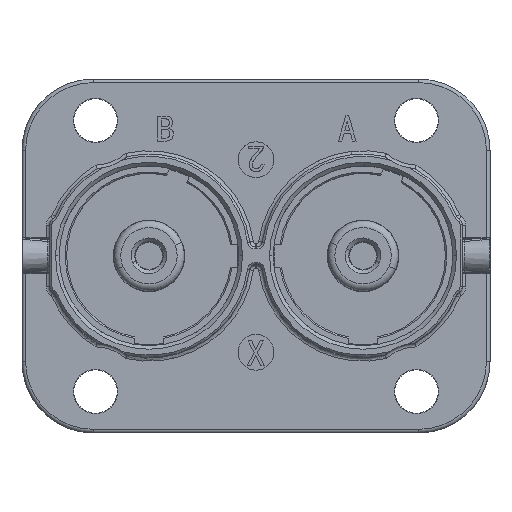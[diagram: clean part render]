
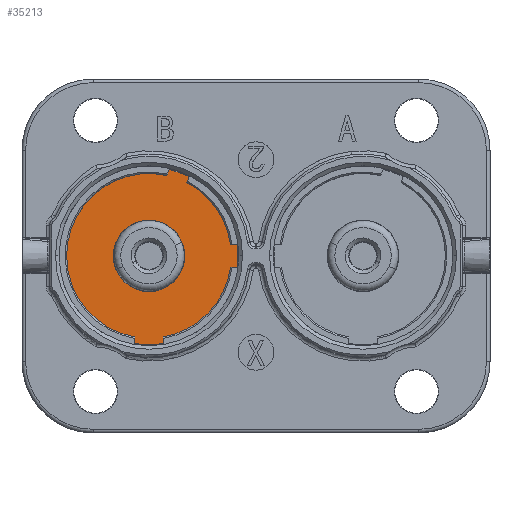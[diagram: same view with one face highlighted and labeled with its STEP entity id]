
A CAD part, top view. The second image highlights one B-rep face of the part: STEP entity #35213.
In plain terms, the highlighted planar face has unit normal (0, 0, 1).
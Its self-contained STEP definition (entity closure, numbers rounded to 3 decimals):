
#1072 = DIRECTION ( 'NONE',  ( 0., 0., -1. ) ) ;
#1168 = ORIENTED_EDGE ( 'NONE', *, *, #40346, .T. ) ;
#1247 = PLANE ( 'NONE',  #42554 ) ;
#1450 = LINE ( 'NONE', #43162, #42008 ) ;
#1623 = CARTESIAN_POINT ( 'NONE',  ( -3.561, 1.6, 7.683 ) ) ;
#2280 = DIRECTION ( 'NONE',  ( 0.342, 0.94, 0. ) ) ;
#2429 = VERTEX_POINT ( 'NONE', #16832 ) ;
#2535 = CARTESIAN_POINT ( 'NONE',  ( -2.674, 1.6, 7.683 ) ) ;
#2698 = CARTESIAN_POINT ( 'NONE',  ( -17., -9.479, 7.683 ) ) ;
#3039 = DIRECTION ( 'NONE',  ( 1., 0., 0. ) ) ;
#3105 = CIRCLE ( 'NONE', #9511, 12.43 ) ;
#3163 = CARTESIAN_POINT ( 'NONE',  ( -15., 0., 7.683 ) ) ;
#3315 = VERTEX_POINT ( 'NONE', #15077 ) ;
#3456 = AXIS2_PLACEMENT_3D ( 'NONE', #30506, #9749, #33979 ) ;
#4047 = EDGE_LOOP ( 'NONE', ( #25305, #32579 ) ) ;
#4705 = CARTESIAN_POINT ( 'NONE',  ( -12.493, 11.275, 7.683 ) ) ;
#4843 = AXIS2_PLACEMENT_3D ( 'NONE', #44519, #23692, #3039 ) ;
#5690 = CARTESIAN_POINT ( 'NONE',  ( -15., 0., 7.683 ) ) ;
#6140 = DIRECTION ( 'NONE',  ( 0., 1., 0. ) ) ;
#6490 = LINE ( 'NONE', #39420, #14583 ) ;
#6622 = DIRECTION ( 'NONE',  ( 1., 0., 0. ) ) ;
#6895 = VERTEX_POINT ( 'NONE', #37498 ) ;
#7235 = VECTOR ( 'NONE', #2280, 1000. ) ;
#7286 = EDGE_CURVE ( 'NONE', #2429, #6895, #35139, .T. ) ;
#7413 = ORIENTED_EDGE ( 'NONE', *, *, #44130, .F. ) ;
#7808 = CARTESIAN_POINT ( 'NONE',  ( -17., -11.376, 7.683 ) ) ;
#7820 = EDGE_CURVE ( 'NONE', #15420, #11258, #1450, .T. ) ;
#8349 = VERTEX_POINT ( 'NONE', #22024 ) ;
#8533 = VECTOR ( 'NONE', #29875, 1000. ) ;
#9155 = DIRECTION ( 'NONE',  ( 1., 0., 0. ) ) ;
#9511 = AXIS2_PLACEMENT_3D ( 'NONE', #13577, #37825, #17070 ) ;
#9596 = FACE_BOUND ( 'NONE', #4047, .T. ) ;
#9732 = VERTEX_POINT ( 'NONE', #24856 ) ;
#9749 = DIRECTION ( 'NONE',  ( 0., 0., -1. ) ) ;
#10677 = DIRECTION ( 'NONE',  ( -0.342, -0.94, 0. ) ) ;
#10698 = ORIENTED_EDGE ( 'NONE', *, *, #30444, .F. ) ;
#10732 = EDGE_CURVE ( 'NONE', #22146, #8349, #22030, .T. ) ;
#11016 = ORIENTED_EDGE ( 'NONE', *, *, #13310, .F. ) ;
#11258 = VERTEX_POINT ( 'NONE', #2535 ) ;
#11588 = DIRECTION ( 'NONE',  ( 0., 0., 1. ) ) ;
#12173 = EDGE_CURVE ( 'NONE', #2429, #28296, #22360, .T. ) ;
#13108 = CIRCLE ( 'NONE', #18518, 11.55 ) ;
#13310 = EDGE_CURVE ( 'NONE', #20489, #3315, #27063, .T. ) ;
#13577 = CARTESIAN_POINT ( 'NONE',  ( -15., 0., 7.683 ) ) ;
#13803 = ORIENTED_EDGE ( 'NONE', *, *, #24626, .F. ) ;
#14583 = VECTOR ( 'NONE', #42889, 1000. ) ;
#15077 = CARTESIAN_POINT ( 'NONE',  ( -9.674, 10.249, 7.683 ) ) ;
#15420 = VERTEX_POINT ( 'NONE', #1623 ) ;
#15462 = DIRECTION ( 'NONE',  ( 0., 0., 1. ) ) ;
#15671 = CARTESIAN_POINT ( 'NONE',  ( -3.561, -1.6, 7.683 ) ) ;
#15757 = ORIENTED_EDGE ( 'NONE', *, *, #32434, .F. ) ;
#16048 = ORIENTED_EDGE ( 'NONE', *, *, #18278, .T. ) ;
#16537 = CARTESIAN_POINT ( 'NONE',  ( -15., 0., 7.683 ) ) ;
#16832 = CARTESIAN_POINT ( 'NONE',  ( -17., -12.268, 7.683 ) ) ;
#16935 = AXIS2_PLACEMENT_3D ( 'NONE', #21710, #1072, #25167 ) ;
#17070 = DIRECTION ( 'NONE',  ( 1., 0., 0. ) ) ;
#18091 = DIRECTION ( 'NONE',  ( 0., 0., -1. ) ) ;
#18204 = EDGE_LOOP ( 'NONE', ( #18843, #35120, #13803, #44279, #7413, #1168, #25484, #19540, #11016, #16048, #20738, #10698, #15757 ) ) ;
#18278 = EDGE_CURVE ( 'NONE', #20489, #36750, #3105, .T. ) ;
#18518 = AXIS2_PLACEMENT_3D ( 'NONE', #5690, #29890, #9155 ) ;
#18843 = ORIENTED_EDGE ( 'NONE', *, *, #12173, .F. ) ;
#18864 = CIRCLE ( 'NONE', #3456, 11.55 ) ;
#19540 = ORIENTED_EDGE ( 'NONE', *, *, #36572, .F. ) ;
#19542 = CIRCLE ( 'NONE', #26047, 12.43 ) ;
#19601 = CIRCLE ( 'NONE', #16935, 11.55 ) ;
#19994 = DIRECTION ( 'NONE',  ( 1., 0., 0. ) ) ;
#20489 = VERTEX_POINT ( 'NONE', #43589 ) ;
#20636 = AXIS2_PLACEMENT_3D ( 'NONE', #38860, #18091, #42325 ) ;
#20738 = ORIENTED_EDGE ( 'NONE', *, *, #39757, .F. ) ;
#21710 = CARTESIAN_POINT ( 'NONE',  ( -15., 0., 7.683 ) ) ;
#21879 = CARTESIAN_POINT ( 'NONE',  ( -15., 0., 7.683 ) ) ;
#22024 = CARTESIAN_POINT ( 'NONE',  ( -13., -11.376, 7.683 ) ) ;
#22030 = CIRCLE ( 'NONE', #4843, 11.55 ) ;
#22146 = VERTEX_POINT ( 'NONE', #15671 ) ;
#22360 = LINE ( 'NONE', #2698, #31613 ) ;
#23692 = DIRECTION ( 'NONE',  ( 0., 0., -1. ) ) ;
#23918 = CARTESIAN_POINT ( 'NONE',  ( -12.189, 12.108, 7.683 ) ) ;
#23950 = AXIS2_PLACEMENT_3D ( 'NONE', #3163, #27370, #6622 ) ;
#24626 = EDGE_CURVE ( 'NONE', #8349, #6895, #28028, .T. ) ;
#24856 = CARTESIAN_POINT ( 'NONE',  ( -15., -5., 7.683 ) ) ;
#25167 = DIRECTION ( 'NONE',  ( 1., 0., 0. ) ) ;
#25305 = ORIENTED_EDGE ( 'NONE', *, *, #39901, .T. ) ;
#25484 = ORIENTED_EDGE ( 'NONE', *, *, #7820, .F. ) ;
#26047 = AXIS2_PLACEMENT_3D ( 'NONE', #16537, #40799, #19994 ) ;
#26391 = CARTESIAN_POINT ( 'NONE',  ( -13., -12.44, 7.683 ) ) ;
#26941 = FACE_OUTER_BOUND ( 'NONE', #18204, .T. ) ;
#27063 = LINE ( 'NONE', #41733, #44407 ) ;
#27370 = DIRECTION ( 'NONE',  ( 0., 0., -1. ) ) ;
#28028 = LINE ( 'NONE', #26391, #8533 ) ;
#28030 = AXIS2_PLACEMENT_3D ( 'NONE', #36251, #15462, #39742 ) ;
#28296 = VERTEX_POINT ( 'NONE', #7808 ) ;
#29234 = DIRECTION ( 'NONE',  ( 1., 0., 0. ) ) ;
#29875 = DIRECTION ( 'NONE',  ( 0., -1., 0. ) ) ;
#29890 = DIRECTION ( 'NONE',  ( 0., 0., -1. ) ) ;
#29952 = CARTESIAN_POINT ( 'NONE',  ( -15., 5., 7.683 ) ) ;
#30444 = EDGE_CURVE ( 'NONE', #33133, #37302, #19601, .T. ) ;
#30506 = CARTESIAN_POINT ( 'NONE',  ( -15., 0., 7.683 ) ) ;
#31613 = VECTOR ( 'NONE', #6140, 1000. ) ;
#31790 = VERTEX_POINT ( 'NONE', #29952 ) ;
#32416 = CARTESIAN_POINT ( 'NONE',  ( -26.55, 0., 7.683 ) ) ;
#32434 = EDGE_CURVE ( 'NONE', #28296, #33133, #18864, .T. ) ;
#32579 = ORIENTED_EDGE ( 'NONE', *, *, #37803, .T. ) ;
#33004 = VERTEX_POINT ( 'NONE', #37566 ) ;
#33133 = VERTEX_POINT ( 'NONE', #32416 ) ;
#33979 = DIRECTION ( 'NONE',  ( 1., 0., 0. ) ) ;
#34898 = LINE ( 'NONE', #43734, #7235 ) ;
#35120 = ORIENTED_EDGE ( 'NONE', *, *, #7286, .T. ) ;
#35139 = CIRCLE ( 'NONE', #28030, 12.43 ) ;
#35213 = ADVANCED_FACE ( 'NONE', ( #9596, #26941 ), #1247, .T. ) ;
#35883 = DIRECTION ( 'NONE',  ( 1., 0., 0. ) ) ;
#36251 = CARTESIAN_POINT ( 'NONE',  ( -15., 0., 7.683 ) ) ;
#36572 = EDGE_CURVE ( 'NONE', #3315, #15420, #13108, .T. ) ;
#36750 = VERTEX_POINT ( 'NONE', #23918 ) ;
#37302 = VERTEX_POINT ( 'NONE', #4705 ) ;
#37498 = CARTESIAN_POINT ( 'NONE',  ( -13., -12.268, 7.683 ) ) ;
#37566 = CARTESIAN_POINT ( 'NONE',  ( -2.674, -1.6, 7.683 ) ) ;
#37803 = EDGE_CURVE ( 'NONE', #31790, #9732, #40106, .T. ) ;
#37825 = DIRECTION ( 'NONE',  ( 0., 0., 1. ) ) ;
#38860 = CARTESIAN_POINT ( 'NONE',  ( -15., 0., 7.683 ) ) ;
#39420 = CARTESIAN_POINT ( 'NONE',  ( -2.502, -1.6, 7.683 ) ) ;
#39742 = DIRECTION ( 'NONE',  ( 1., 0., 0. ) ) ;
#39757 = EDGE_CURVE ( 'NONE', #37302, #36750, #34898, .T. ) ;
#39901 = EDGE_CURVE ( 'NONE', #9732, #31790, #40289, .T. ) ;
#40106 = CIRCLE ( 'NONE', #20636, 5. ) ;
#40289 = CIRCLE ( 'NONE', #23950, 5. ) ;
#40346 = EDGE_CURVE ( 'NONE', #33004, #11258, #19542, .T. ) ;
#40799 = DIRECTION ( 'NONE',  ( 0., 0., 1. ) ) ;
#41733 = CARTESIAN_POINT ( 'NONE',  ( -9.312, 11.243, 7.683 ) ) ;
#42008 = VECTOR ( 'NONE', #29234, 1000. ) ;
#42325 = DIRECTION ( 'NONE',  ( 1., 0., 0. ) ) ;
#42554 = AXIS2_PLACEMENT_3D ( 'NONE', #21879, #11588, #35883 ) ;
#42889 = DIRECTION ( 'NONE',  ( -1., 0., 0. ) ) ;
#43162 = CARTESIAN_POINT ( 'NONE',  ( -2.502, 1.6, 7.683 ) ) ;
#43589 = CARTESIAN_POINT ( 'NONE',  ( -9.37, 11.082, 7.683 ) ) ;
#43734 = CARTESIAN_POINT ( 'NONE',  ( -13.882, 7.456, 7.683 ) ) ;
#44130 = EDGE_CURVE ( 'NONE', #33004, #22146, #6490, .T. ) ;
#44279 = ORIENTED_EDGE ( 'NONE', *, *, #10732, .F. ) ;
#44407 = VECTOR ( 'NONE', #10677, 1000. ) ;
#44519 = CARTESIAN_POINT ( 'NONE',  ( -15., 0., 7.683 ) ) ;
